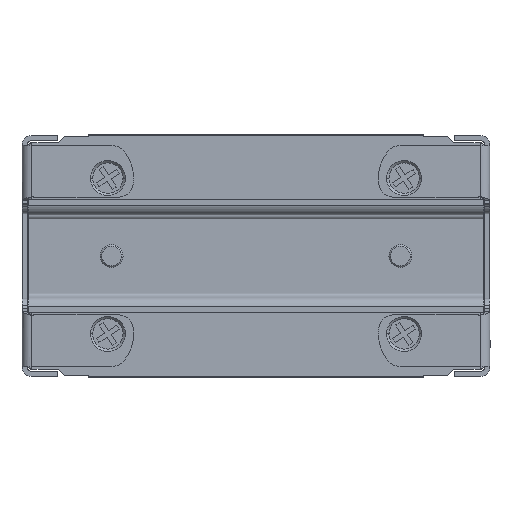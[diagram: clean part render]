
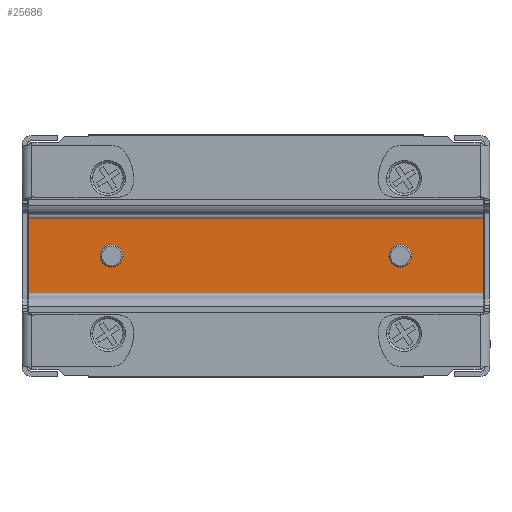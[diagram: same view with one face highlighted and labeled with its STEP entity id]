
A CAD part, front view. The second image highlights one B-rep face of the part: STEP entity #25686.
In plain terms, the highlighted planar face has unit normal (0, -1, 0).
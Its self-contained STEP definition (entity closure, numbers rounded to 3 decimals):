
#10 = VERTEX_POINT ( 'NONE', #11939 ) ;
#11939 = CARTESIAN_POINT ( 'NONE',  ( -59., 9.5, -1.5 ) ) ;
#25109 = VERTEX_POINT ( 'NONE', #30804 ) ;
#25147 = EDGE_CURVE ( 'NONE', #25109, #25224, #30936, .T. ) ;
#25206 = EDGE_CURVE ( 'NONE', #25208, #25209, #31149, .T. ) ;
#25208 = VERTEX_POINT ( 'NONE', #31145 ) ;
#25209 = VERTEX_POINT ( 'NONE', #31144 ) ;
#25224 = VERTEX_POINT ( 'NONE', #31174 ) ;
#25228 = VERTEX_POINT ( 'NONE', #31173 ) ;
#25306 = EDGE_CURVE ( 'NONE', #10, #25228, #31309, .T. ) ;
#25686 = ADVANCED_FACE ( 'NONE', ( #32249, #32248, #32247 ), #32246, .F. ) ;
#25688 = EDGE_LOOP ( 'NONE', ( #25690, #25694 ) ) ;
#25690 = ORIENTED_EDGE ( 'NONE', *, *, #25692, .T. ) ;
#25692 = EDGE_CURVE ( 'NONE', #25228, #10, #32289, .T. ) ;
#25694 = ORIENTED_EDGE ( 'NONE', *, *, #25306, .T. ) ;
#25695 = EDGE_LOOP ( 'NONE', ( #25697, #25729 ) ) ;
#25697 = ORIENTED_EDGE ( 'NONE', *, *, #25700, .T. ) ;
#25700 = EDGE_CURVE ( 'NONE', #25209, #25208, #32279, .T. ) ;
#25729 = ORIENTED_EDGE ( 'NONE', *, *, #25206, .T. ) ;
#25730 = EDGE_LOOP ( 'NONE', ( #25732, #25738, #25743, #25748 ) ) ;
#25732 = ORIENTED_EDGE ( 'NONE', *, *, #25735, .T. ) ;
#25735 = EDGE_CURVE ( 'NONE', #25224, #25736, #32454, .T. ) ;
#25736 = VERTEX_POINT ( 'NONE', #32450 ) ;
#25738 = ORIENTED_EDGE ( 'NONE', *, *, #25740, .F. ) ;
#25740 = EDGE_CURVE ( 'NONE', #25741, #25736, #32449, .T. ) ;
#25741 = VERTEX_POINT ( 'NONE', #32445 ) ;
#25743 = ORIENTED_EDGE ( 'NONE', *, *, #25746, .T. ) ;
#25746 = EDGE_CURVE ( 'NONE', #25741, #25109, #32444, .T. ) ;
#25748 = ORIENTED_EDGE ( 'NONE', *, *, #25147, .T. ) ;
#30804 = CARTESIAN_POINT ( 'NONE',  ( -70., 9.5, -6.7 ) ) ;
#30929 = DIRECTION ( 'NONE',  ( 1., 0., 0. ) ) ;
#30930 = VECTOR ( 'NONE', #30929, 1000. ) ;
#30931 = CARTESIAN_POINT ( 'NONE',  ( -70., 9.5, -6.7 ) ) ;
#30936 = LINE ( 'NONE', #30931, #30930 ) ;
#31144 = CARTESIAN_POINT ( 'NONE',  ( -21., 9.5, 1.5 ) ) ;
#31145 = CARTESIAN_POINT ( 'NONE',  ( -21., 9.5, -1.5 ) ) ;
#31146 = DIRECTION ( 'NONE',  ( 0., 0., 1. ) ) ;
#31147 = DIRECTION ( 'NONE',  ( 0., 1., 0. ) ) ;
#31148 = AXIS2_PLACEMENT_3D ( 'NONE', #31154, #31147, #31146 ) ;
#31149 = CIRCLE ( 'NONE', #31148, 1.5 ) ;
#31154 = CARTESIAN_POINT ( 'NONE',  ( -21., 9.5, 0. ) ) ;
#31173 = CARTESIAN_POINT ( 'NONE',  ( -59., 9.5, 1.5 ) ) ;
#31174 = CARTESIAN_POINT ( 'NONE',  ( -10., 9.5, -6.7 ) ) ;
#31305 = DIRECTION ( 'NONE',  ( 0., 0., 1. ) ) ;
#31306 = DIRECTION ( 'NONE',  ( 0., 1., 0. ) ) ;
#31307 = CARTESIAN_POINT ( 'NONE',  ( -59., 9.5, 0. ) ) ;
#31308 = AXIS2_PLACEMENT_3D ( 'NONE', #31307, #31306, #31305 ) ;
#31309 = CIRCLE ( 'NONE', #31308, 1.5 ) ;
#32240 = CARTESIAN_POINT ( 'NONE',  ( -59., 9.5, 0. ) ) ;
#32242 = DIRECTION ( 'NONE',  ( 0., 0., 1. ) ) ;
#32243 = DIRECTION ( 'NONE',  ( 0., 1., 0. ) ) ;
#32244 = CARTESIAN_POINT ( 'NONE',  ( -43.75, 9.5, 0. ) ) ;
#32245 = AXIS2_PLACEMENT_3D ( 'NONE', #32244, #32243, #32242 ) ;
#32246 = PLANE ( 'NONE',  #32245 ) ;
#32247 = FACE_OUTER_BOUND ( 'NONE', #25730, .T. ) ;
#32248 = FACE_BOUND ( 'NONE', #25695, .T. ) ;
#32249 = FACE_BOUND ( 'NONE', #25688, .T. ) ;
#32276 = DIRECTION ( 'NONE',  ( 0., 0., 1. ) ) ;
#32277 = DIRECTION ( 'NONE',  ( 0., 1., 0. ) ) ;
#32278 = AXIS2_PLACEMENT_3D ( 'NONE', #32283, #32277, #32276 ) ;
#32279 = CIRCLE ( 'NONE', #32278, 1.5 ) ;
#32283 = CARTESIAN_POINT ( 'NONE',  ( -21., 9.5, 0. ) ) ;
#32286 = DIRECTION ( 'NONE',  ( 0., 0., 1. ) ) ;
#32287 = DIRECTION ( 'NONE',  ( 0., 1., 0. ) ) ;
#32288 = AXIS2_PLACEMENT_3D ( 'NONE', #32240, #32287, #32286 ) ;
#32289 = CIRCLE ( 'NONE', #32288, 1.5 ) ;
#32438 = DIRECTION ( 'NONE',  ( 0., 0., -1. ) ) ;
#32439 = VECTOR ( 'NONE', #32438, 1000. ) ;
#32440 = CARTESIAN_POINT ( 'NONE',  ( -70., 9.5, -7.5 ) ) ;
#32444 = LINE ( 'NONE', #32440, #32439 ) ;
#32445 = CARTESIAN_POINT ( 'NONE',  ( -70., 9.5, 6.7 ) ) ;
#32446 = DIRECTION ( 'NONE',  ( 1., 0., 0. ) ) ;
#32447 = VECTOR ( 'NONE', #32446, 1000. ) ;
#32448 = CARTESIAN_POINT ( 'NONE',  ( -70., 9.5, 6.7 ) ) ;
#32449 = LINE ( 'NONE', #32448, #32447 ) ;
#32450 = CARTESIAN_POINT ( 'NONE',  ( -10., 9.5, 6.7 ) ) ;
#32451 = DIRECTION ( 'NONE',  ( 0., 0., 1. ) ) ;
#32452 = VECTOR ( 'NONE', #32451, 1000. ) ;
#32453 = CARTESIAN_POINT ( 'NONE',  ( -10., 9.5, -7.5 ) ) ;
#32454 = LINE ( 'NONE', #32453, #32452 ) ;
